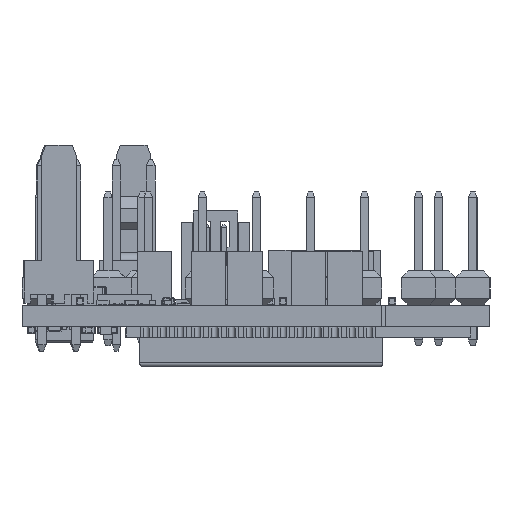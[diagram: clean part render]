
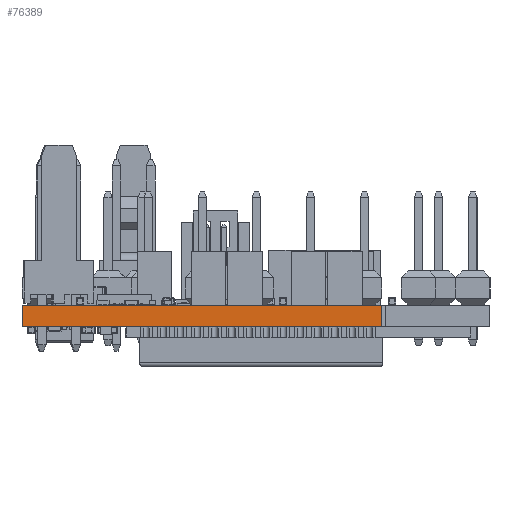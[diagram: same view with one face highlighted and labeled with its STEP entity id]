
A CAD part, left-side view. The second image highlights one B-rep face of the part: STEP entity #76389.
In plain terms, the highlighted planar face has unit normal (-1, 0, 0).
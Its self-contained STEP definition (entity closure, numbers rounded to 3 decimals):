
#1730=PLANE('',#81630);
#5293=FACE_OUTER_BOUND('',#9520,.T.);
#9520=EDGE_LOOP('',(#52686,#52687,#52688,#52689));
#14363=LINE('',#109225,#23348);
#14364=LINE('',#109228,#23349);
#14365=LINE('',#109230,#23350);
#14366=LINE('',#109231,#23351);
#23348=VECTOR('',#88634,10.);
#23349=VECTOR('',#88637,10.);
#23350=VECTOR('',#88638,10.);
#23351=VECTOR('',#88639,10.);
#34157=VERTEX_POINT('',#109221);
#34158=VERTEX_POINT('',#109223);
#34159=VERTEX_POINT('',#109227);
#34160=VERTEX_POINT('',#109229);
#41524=EDGE_CURVE('',#34157,#34158,#14363,.T.);
#41525=EDGE_CURVE('',#34159,#34157,#14364,.T.);
#41526=EDGE_CURVE('',#34160,#34158,#14365,.T.);
#41527=EDGE_CURVE('',#34159,#34160,#14366,.T.);
#52686=ORIENTED_EDGE('',*,*,#41525,.T.);
#52687=ORIENTED_EDGE('',*,*,#41524,.T.);
#52688=ORIENTED_EDGE('',*,*,#41526,.F.);
#52689=ORIENTED_EDGE('',*,*,#41527,.F.);
#76389=ADVANCED_FACE('',(#5293),#1730,.T.);
#81630=AXIS2_PLACEMENT_3D('',#109226,#88635,#88636);
#88634=DIRECTION('',(0.,0.,1.));
#88635=DIRECTION('center_axis',(-1.,0.,0.));
#88636=DIRECTION('ref_axis',(0.,-1.,0.));
#88637=DIRECTION('',(0.,-1.,0.));
#88638=DIRECTION('',(0.,-1.,0.));
#88639=DIRECTION('',(0.,0.,1.));
#109221=CARTESIAN_POINT('',(0.2,8.2,0.));
#109223=CARTESIAN_POINT('',(0.2,8.2,1.57));
#109225=CARTESIAN_POINT('',(0.2,8.2,0.));
#109226=CARTESIAN_POINT('Origin',(0.2,34.8,0.));
#109227=CARTESIAN_POINT('',(0.2,34.8,0.));
#109228=CARTESIAN_POINT('',(0.2,34.8,0.));
#109229=CARTESIAN_POINT('',(0.2,34.8,1.57));
#109230=CARTESIAN_POINT('',(0.2,34.8,1.57));
#109231=CARTESIAN_POINT('',(0.2,34.8,0.));
